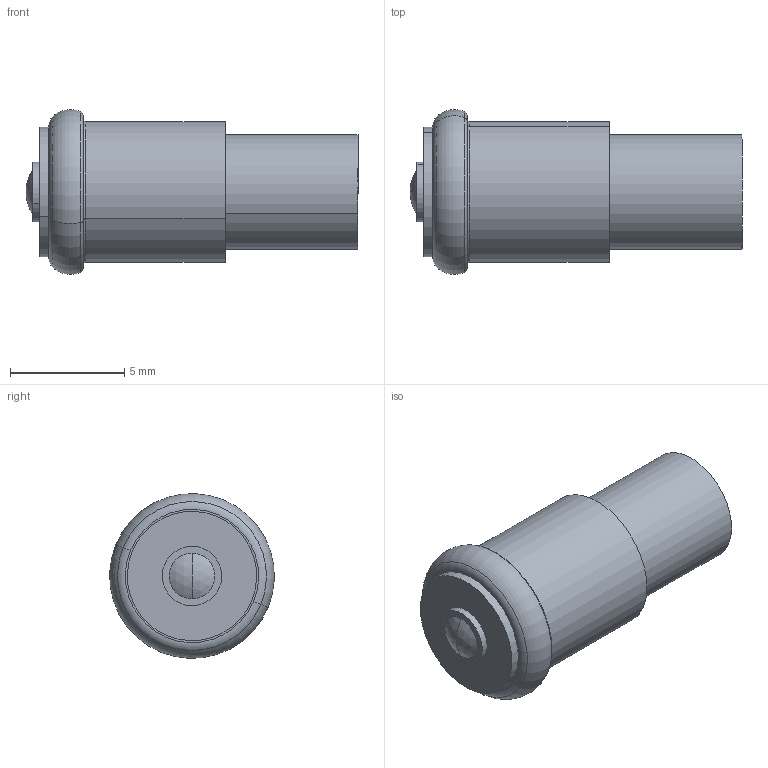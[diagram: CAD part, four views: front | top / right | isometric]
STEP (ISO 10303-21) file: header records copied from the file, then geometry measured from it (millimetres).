
FILE_DESCRIPTION (( 'STEP AP203' ), '1' );
FILE_NAME ('206 Series.STEP', '2016-08-03T08:37:04', ( '' ), ( '' ), 'SwSTEP 2.0', 'SolidWorks 2016', '' );
FILE_SCHEMA (( 'CONFIG_CONTROL_DESIGN' ));
Length unit declared in the file: millimetre
Products named in the file (5): Part11^206; 206 Series; 501F-C_Short Pins; MFCAPSTYLE1_marl; Solder1
Assembly tree (4 placements, depth 2):
  206 Series
    MFCAPSTYLE1_marl
    501F-C_Short Pins
    Solder1
    Part11^206
Bounding box: 14.5 x 7.19 x 7.19 mm (x, y, z)
Volume: 386.9 mm3; surface area: 686.9 mm2
Topology: 4 solids, 4 shells, 47 faces, 92 edges, 59 vertices
Faces by surface type: plane 21, cylinder 16, torus 8, sphere 2
Entity records: 1749 total; most frequent: DIRECTION 252, CARTESIAN_POINT 205, ORIENTED_EDGE 184, AXIS2_PLACEMENT_3D 106, EDGE_CURVE 92, VERTEX_POINT 59, EDGE_LOOP 55, CIRCLE 52
